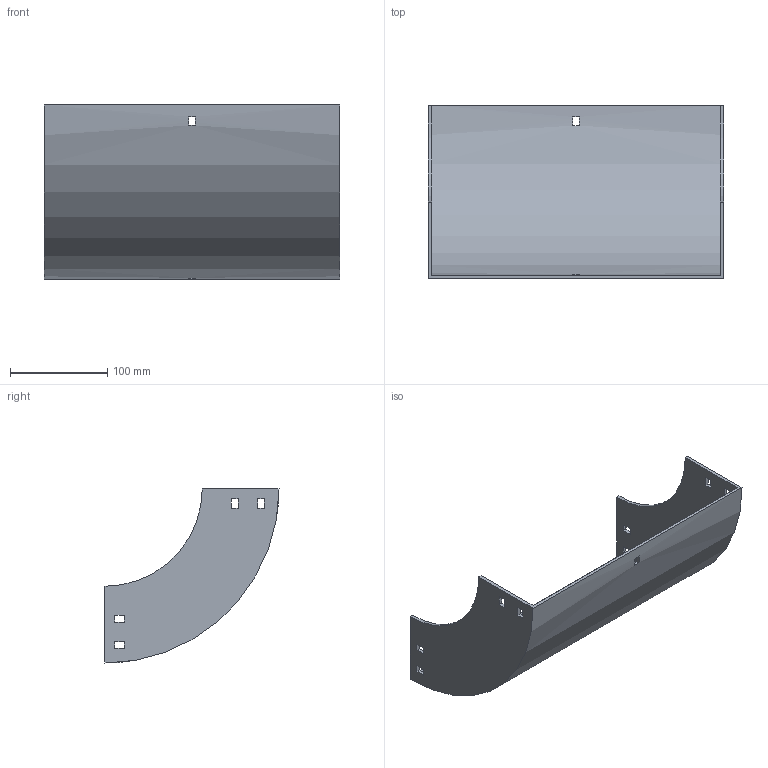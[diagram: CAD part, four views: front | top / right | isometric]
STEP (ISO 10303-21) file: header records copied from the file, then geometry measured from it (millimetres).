
FILE_DESCRIPTION (( 'STEP AP214' ), '1' );
FILE_NAME ('30B1C300.step', '2025-02-21T09:50:54', ( '' ), ( '' ), 'SwSTEP 2.0', 'SolidWorks 2023', '' );
FILE_SCHEMA (( 'AUTOMOTIVE_DESIGN' ));
Length unit declared in the file: millimetre
Products named in the file (1): 30B1C300
Bounding box: 304 x 179 x 179 mm (x, y, z)
Volume: 408226.8 mm3; surface area: 238746.2 mm2
Topology: 1 solids, 1 shells, 50 faces, 144 edges, 96 vertices
Faces by surface type: plane 46, cylinder 4
Entity records: 1687 total; most frequent: CARTESIAN_POINT 291, ORIENTED_EDGE 288, DIRECTION 262, EDGE_CURVE 144, LINE 128, VECTOR 128, VERTEX_POINT 96, EDGE_LOOP 70
